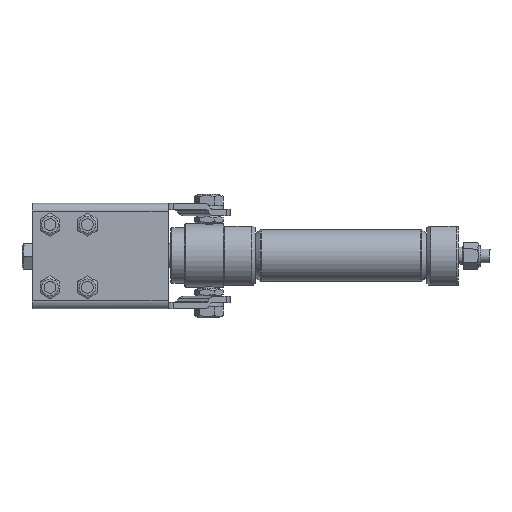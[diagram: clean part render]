
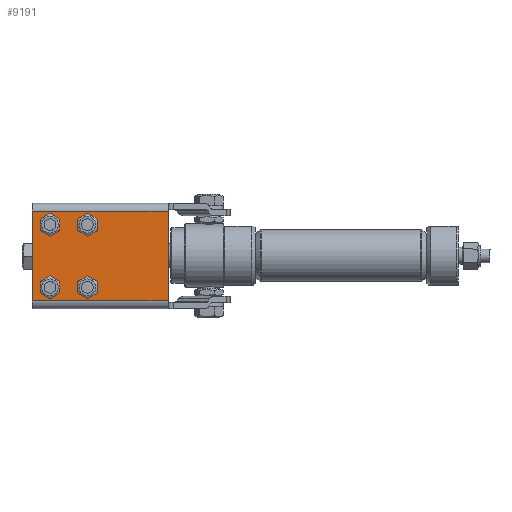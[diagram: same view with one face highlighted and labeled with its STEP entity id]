
A CAD part, front view. The second image highlights one B-rep face of the part: STEP entity #9191.
In plain terms, the highlighted planar face has unit normal (0, -1, 0).
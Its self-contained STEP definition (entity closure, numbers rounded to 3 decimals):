
#581=FACE_BOUND('',#1557,.T.);
#582=FACE_BOUND('',#1558,.T.);
#583=FACE_BOUND('',#1559,.T.);
#584=FACE_BOUND('',#1560,.T.);
#706=PLANE('',#10333);
#1003=FACE_OUTER_BOUND('',#1556,.T.);
#1556=EDGE_LOOP('',(#6525,#6526,#6527,#6528));
#1557=EDGE_LOOP('',(#6529));
#1558=EDGE_LOOP('',(#6530));
#1559=EDGE_LOOP('',(#6531));
#1560=EDGE_LOOP('',(#6532));
#2215=LINE('',#14378,#2895);
#2222=LINE('',#14405,#2902);
#2228=LINE('',#14437,#2908);
#2290=LINE('',#14649,#2970);
#2895=VECTOR('',#11396,10.);
#2902=VECTOR('',#11409,10.);
#2908=VECTOR('',#11431,10.);
#2970=VECTOR('',#11661,10.);
#3590=CIRCLE('',#10261,3.5);
#3592=CIRCLE('',#10264,3.5);
#3594=CIRCLE('',#10267,3.5);
#3596=CIRCLE('',#10270,3.5);
#4062=VERTEX_POINT('',#14375);
#4063=VERTEX_POINT('',#14377);
#4072=VERTEX_POINT('',#14403);
#4082=VERTEX_POINT('',#14435);
#4093=VERTEX_POINT('',#14465);
#4095=VERTEX_POINT('',#14471);
#4097=VERTEX_POINT('',#14477);
#4099=VERTEX_POINT('',#14483);
#4944=EDGE_CURVE('',#4062,#4063,#2215,.T.);
#4955=EDGE_CURVE('',#4062,#4072,#2222,.T.);
#4968=EDGE_CURVE('',#4082,#4072,#2228,.T.);
#4983=EDGE_CURVE('',#4093,#4093,#3590,.T.);
#4986=EDGE_CURVE('',#4095,#4095,#3592,.T.);
#4989=EDGE_CURVE('',#4097,#4097,#3594,.T.);
#4992=EDGE_CURVE('',#4099,#4099,#3596,.T.);
#5074=EDGE_CURVE('',#4063,#4082,#2290,.T.);
#6525=ORIENTED_EDGE('',*,*,#4944,.F.);
#6526=ORIENTED_EDGE('',*,*,#4955,.T.);
#6527=ORIENTED_EDGE('',*,*,#4968,.F.);
#6528=ORIENTED_EDGE('',*,*,#5074,.F.);
#6529=ORIENTED_EDGE('',*,*,#4983,.T.);
#6530=ORIENTED_EDGE('',*,*,#4986,.T.);
#6531=ORIENTED_EDGE('',*,*,#4989,.T.);
#6532=ORIENTED_EDGE('',*,*,#4992,.T.);
#9191=ADVANCED_FACE('',(#1003,#581,#582,#583,#584),#706,.T.);
#10261=AXIS2_PLACEMENT_3D('',#14467,#11461,#11462);
#10264=AXIS2_PLACEMENT_3D('',#14473,#11468,#11469);
#10267=AXIS2_PLACEMENT_3D('',#14479,#11475,#11476);
#10270=AXIS2_PLACEMENT_3D('',#14485,#11482,#11483);
#10333=AXIS2_PLACEMENT_3D('',#14648,#11659,#11660);
#11396=DIRECTION('',(-1.,0.,0.));
#11409=DIRECTION('',(0.,0.,1.));
#11431=DIRECTION('',(1.,0.,0.));
#11461=DIRECTION('center_axis',(0.,1.,0.));
#11462=DIRECTION('ref_axis',(-1.,0.,0.));
#11468=DIRECTION('center_axis',(0.,1.,0.));
#11469=DIRECTION('ref_axis',(-1.,0.,0.));
#11475=DIRECTION('center_axis',(0.,1.,0.));
#11476=DIRECTION('ref_axis',(-1.,0.,0.));
#11482=DIRECTION('center_axis',(0.,1.,0.));
#11483=DIRECTION('ref_axis',(-1.,0.,0.));
#11659=DIRECTION('center_axis',(0.,-1.,0.));
#11660=DIRECTION('ref_axis',(1.,0.,0.));
#11661=DIRECTION('',(0.,0.,1.));
#14375=CARTESIAN_POINT('',(69.,0.,-46.3));
#14377=CARTESIAN_POINT('',(0.,0.,-46.3));
#14378=CARTESIAN_POINT('',(26.402,0.,-46.3));
#14403=CARTESIAN_POINT('',(69.,0.,-0.8));
#14405=CARTESIAN_POINT('',(69.,0.,0.));
#14435=CARTESIAN_POINT('',(0.,0.,-0.8));
#14437=CARTESIAN_POINT('',(26.402,0.,-0.8));
#14465=CARTESIAN_POINT('',(31.5,0.,-7.65));
#14467=CARTESIAN_POINT('Origin',(28.,0.,-7.65));
#14471=CARTESIAN_POINT('',(12.5,0.,-39.45));
#14473=CARTESIAN_POINT('Origin',(9.,0.,-39.45));
#14477=CARTESIAN_POINT('',(31.5,0.,-39.45));
#14479=CARTESIAN_POINT('Origin',(28.,0.,-39.45));
#14483=CARTESIAN_POINT('',(12.5,0.,-7.65));
#14485=CARTESIAN_POINT('Origin',(9.,0.,-7.65));
#14648=CARTESIAN_POINT('Origin',(0.,0.,0.));
#14649=CARTESIAN_POINT('',(0.,0.,0.));
